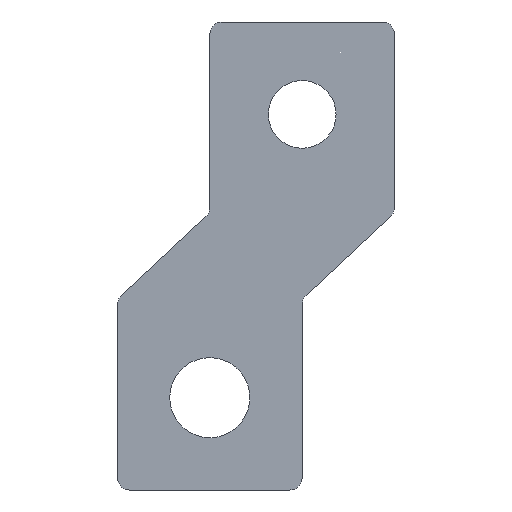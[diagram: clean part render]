
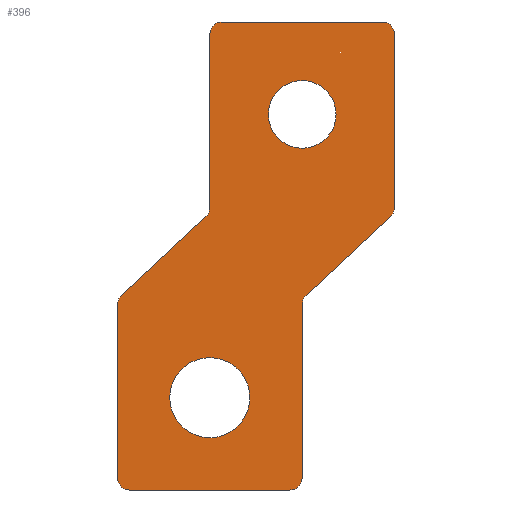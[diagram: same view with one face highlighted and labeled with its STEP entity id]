
A CAD part, front view. The second image highlights one B-rep face of the part: STEP entity #396.
In plain terms, the highlighted planar face has unit normal (0, -1, 0).
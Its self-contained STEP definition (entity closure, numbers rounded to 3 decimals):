
#1=CARTESIAN_POINT('',(0.,0.,0.));
#2=DIRECTION('',(0.,-1.,0.));
#3=DIRECTION('',(1.,0.,0.));
#4=AXIS2_PLACEMENT_3D('',#1,#2,#3);
#6=CARTESIAN_POINT('',(0.,0.,0.));
#7=DIRECTION('',(0.,-1.,0.));
#8=DIRECTION('',(-1.,0.,0.));
#9=AXIS2_PLACEMENT_3D('',#6,#7,#8);
#11=CARTESIAN_POINT('',(-15.,0.,-46.));
#12=DIRECTION('',(0.,-1.,0.));
#13=DIRECTION('',(1.,0.,0.));
#14=AXIS2_PLACEMENT_3D('',#11,#12,#13);
#16=CARTESIAN_POINT('',(-15.,0.,-46.));
#17=DIRECTION('',(0.,-1.,0.));
#18=DIRECTION('',(-1.,0.,0.));
#19=AXIS2_PLACEMENT_3D('',#16,#17,#18);
#21=CARTESIAN_POINT('',(-13.,0.,13.));
#22=DIRECTION('',(0.,-1.,0.));
#23=DIRECTION('',(0.,0.,1.));
#24=AXIS2_PLACEMENT_3D('',#21,#22,#23);
#26=DIRECTION('',(1.,0.,0.));
#27=VECTOR('',#26,26.);
#28=CARTESIAN_POINT('',(-13.,0.,15.));
#29=LINE('',#28,#27);
#30=CARTESIAN_POINT('',(13.,0.,13.));
#31=DIRECTION('',(0.,-1.,0.));
#32=DIRECTION('',(1.,0.,0.));
#33=AXIS2_PLACEMENT_3D('',#30,#31,#32);
#35=DIRECTION('',(0.,0.,-1.));
#36=VECTOR('',#35,28.131);
#37=CARTESIAN_POINT('',(15.,0.,13.));
#38=LINE('',#37,#36);
#39=CARTESIAN_POINT('',(13.,0.,-15.131));
#40=DIRECTION('',(0.,-1.,0.));
#41=DIRECTION('',(0.682,0.,-0.731));
#42=AXIS2_PLACEMENT_3D('',#39,#40,#41);
#44=DIRECTION('',(-0.731,0.,-0.682));
#45=VECTOR('',#44,18.78);
#46=CARTESIAN_POINT('',(14.365,0.,-16.593));
#47=LINE('',#46,#45);
#48=DIRECTION('',(0.,0.,-1.));
#49=VECTOR('',#48,28.131);
#50=CARTESIAN_POINT('',(0.,0.,-30.869));
#51=LINE('',#50,#49);
#52=CARTESIAN_POINT('',(-2.,0.,-59.));
#53=DIRECTION('',(0.,-1.,0.));
#54=DIRECTION('',(0.,0.,-1.));
#55=AXIS2_PLACEMENT_3D('',#52,#53,#54);
#57=DIRECTION('',(-1.,0.,0.));
#58=VECTOR('',#57,26.);
#59=CARTESIAN_POINT('',(-2.,0.,-61.));
#60=LINE('',#59,#58);
#61=CARTESIAN_POINT('',(-28.,0.,-59.));
#62=DIRECTION('',(0.,-1.,0.));
#63=DIRECTION('',(-1.,0.,0.));
#64=AXIS2_PLACEMENT_3D('',#61,#62,#63);
#66=DIRECTION('',(0.,0.,1.));
#67=VECTOR('',#66,28.131);
#68=CARTESIAN_POINT('',(-30.,0.,-59.));
#69=LINE('',#68,#67);
#70=CARTESIAN_POINT('',(-28.,0.,-30.869));
#71=DIRECTION('',(0.,-1.,0.));
#72=DIRECTION('',(-0.682,0.,0.731));
#73=AXIS2_PLACEMENT_3D('',#70,#71,#72);
#75=DIRECTION('',(0.731,0.,0.682));
#76=VECTOR('',#75,18.78);
#77=CARTESIAN_POINT('',(-29.365,0.,-29.407));
#78=LINE('',#77,#76);
#79=DIRECTION('',(0.,0.,1.));
#80=VECTOR('',#79,28.131);
#81=CARTESIAN_POINT('',(-15.,0.,-15.131));
#82=LINE('',#81,#80);
#189=CARTESIAN_POINT('',(-17.,0.,-15.131));
#190=DIRECTION('',(0.,1.,0.));
#191=DIRECTION('',(1.,0.,0.));
#192=AXIS2_PLACEMENT_3D('',#189,#190,#191);
#231=CARTESIAN_POINT('',(2.,0.,-30.869));
#232=DIRECTION('',(0.,1.,0.));
#233=DIRECTION('',(-1.,0.,0.));
#234=AXIS2_PLACEMENT_3D('',#231,#232,#233);
#265=CARTESIAN_POINT('',(5.5,0.,0.));
#266=CARTESIAN_POINT('',(-5.5,0.,0.));
#267=VERTEX_POINT('',#265);
#268=VERTEX_POINT('',#266);
#269=CARTESIAN_POINT('',(-8.5,0.,-46.));
#270=CARTESIAN_POINT('',(-21.5,0.,-46.));
#271=VERTEX_POINT('',#269);
#272=VERTEX_POINT('',#270);
#281=CARTESIAN_POINT('',(-15.,0.,-15.131));
#283=VERTEX_POINT('',#281);
#285=CARTESIAN_POINT('',(-15.635,0.,-16.593));
#287=VERTEX_POINT('',#285);
#289=CARTESIAN_POINT('',(0.,0.,-30.869));
#291=VERTEX_POINT('',#289);
#293=CARTESIAN_POINT('',(0.635,0.,-29.407));
#295=VERTEX_POINT('',#293);
#297=CARTESIAN_POINT('',(-13.,0.,15.));
#298=CARTESIAN_POINT('',(-15.,0.,13.));
#299=VERTEX_POINT('',#297);
#300=VERTEX_POINT('',#298);
#305=CARTESIAN_POINT('',(15.,0.,13.));
#306=CARTESIAN_POINT('',(13.,0.,15.));
#307=VERTEX_POINT('',#305);
#308=VERTEX_POINT('',#306);
#313=CARTESIAN_POINT('',(-30.,0.,-59.));
#314=CARTESIAN_POINT('',(-28.,0.,-61.));
#315=VERTEX_POINT('',#313);
#316=VERTEX_POINT('',#314);
#321=CARTESIAN_POINT('',(-2.,0.,-61.));
#322=CARTESIAN_POINT('',(0.,0.,-59.));
#323=VERTEX_POINT('',#321);
#324=VERTEX_POINT('',#322);
#329=CARTESIAN_POINT('',(-29.365,0.,-29.407));
#330=CARTESIAN_POINT('',(-30.,0.,-30.869));
#331=VERTEX_POINT('',#329);
#332=VERTEX_POINT('',#330);
#337=CARTESIAN_POINT('',(14.365,0.,-16.593));
#338=CARTESIAN_POINT('',(15.,0.,-15.131));
#339=VERTEX_POINT('',#337);
#340=VERTEX_POINT('',#338);
#345=CARTESIAN_POINT('',(0.,0.,0.));
#346=DIRECTION('',(0.,1.,0.));
#347=DIRECTION('',(1.,0.,0.));
#348=AXIS2_PLACEMENT_3D('',#345,#346,#347);
#349=PLANE('',#348);
#351=ORIENTED_EDGE('',*,*,#350,.F.);
#353=ORIENTED_EDGE('',*,*,#352,.T.);
#355=ORIENTED_EDGE('',*,*,#354,.F.);
#357=ORIENTED_EDGE('',*,*,#356,.T.);
#359=ORIENTED_EDGE('',*,*,#358,.F.);
#361=ORIENTED_EDGE('',*,*,#360,.T.);
#363=ORIENTED_EDGE('',*,*,#362,.F.);
#365=ORIENTED_EDGE('',*,*,#364,.T.);
#367=ORIENTED_EDGE('',*,*,#366,.F.);
#369=ORIENTED_EDGE('',*,*,#368,.T.);
#371=ORIENTED_EDGE('',*,*,#370,.F.);
#373=ORIENTED_EDGE('',*,*,#372,.T.);
#375=ORIENTED_EDGE('',*,*,#374,.F.);
#377=ORIENTED_EDGE('',*,*,#376,.T.);
#379=ORIENTED_EDGE('',*,*,#378,.F.);
#381=ORIENTED_EDGE('',*,*,#380,.T.);
#382=EDGE_LOOP('',(#351,#353,#355,#357,#359,#361,#363,#365,#367,#369,#371,#373,
#375,#377,#379,#381));
#383=FACE_OUTER_BOUND('',#382,.F.);
#385=ORIENTED_EDGE('',*,*,#384,.T.);
#387=ORIENTED_EDGE('',*,*,#386,.T.);
#388=EDGE_LOOP('',(#385,#387));
#389=FACE_BOUND('',#388,.F.);
#391=ORIENTED_EDGE('',*,*,#390,.T.);
#393=ORIENTED_EDGE('',*,*,#392,.T.);
#394=EDGE_LOOP('',(#391,#393));
#395=FACE_BOUND('',#394,.F.);
#396=ADVANCED_FACE('',(#383,#389,#395),#349,.F.);
#5=CIRCLE('',#4,5.5);
#10=CIRCLE('',#9,5.5);
#15=CIRCLE('',#14,6.5);
#20=CIRCLE('',#19,6.5);
#25=CIRCLE('',#24,2.);
#34=CIRCLE('',#33,2.);
#43=CIRCLE('',#42,2.);
#56=CIRCLE('',#55,2.);
#65=CIRCLE('',#64,2.);
#74=CIRCLE('',#73,2.);
#193=CIRCLE('',#192,2.);
#235=CIRCLE('',#234,2.);
#350=EDGE_CURVE('',#299,#300,#25,.T.);
#352=EDGE_CURVE('',#299,#308,#29,.T.);
#354=EDGE_CURVE('',#307,#308,#34,.T.);
#356=EDGE_CURVE('',#307,#340,#38,.T.);
#358=EDGE_CURVE('',#339,#340,#43,.T.);
#360=EDGE_CURVE('',#339,#295,#47,.T.);
#362=EDGE_CURVE('',#291,#295,#235,.T.);
#364=EDGE_CURVE('',#291,#324,#51,.T.);
#366=EDGE_CURVE('',#323,#324,#56,.T.);
#368=EDGE_CURVE('',#323,#316,#60,.T.);
#370=EDGE_CURVE('',#315,#316,#65,.T.);
#372=EDGE_CURVE('',#315,#332,#69,.T.);
#374=EDGE_CURVE('',#331,#332,#74,.T.);
#376=EDGE_CURVE('',#331,#287,#78,.T.);
#378=EDGE_CURVE('',#283,#287,#193,.T.);
#380=EDGE_CURVE('',#283,#300,#82,.T.);
#384=EDGE_CURVE('',#267,#268,#5,.T.);
#386=EDGE_CURVE('',#268,#267,#10,.T.);
#390=EDGE_CURVE('',#271,#272,#15,.T.);
#392=EDGE_CURVE('',#272,#271,#20,.T.);
